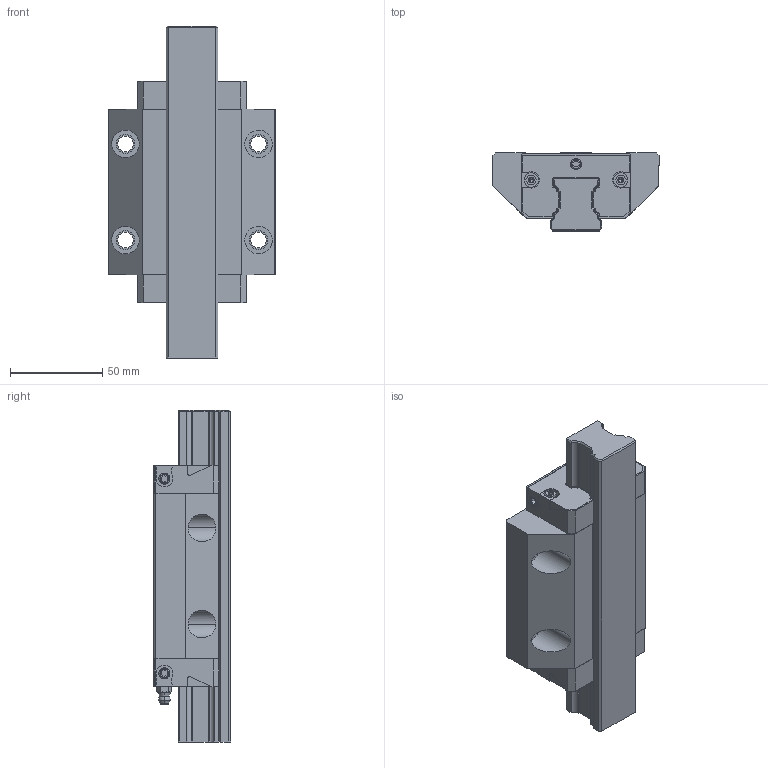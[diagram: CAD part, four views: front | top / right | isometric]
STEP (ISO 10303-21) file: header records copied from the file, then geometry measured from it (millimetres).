
FILE_DESCRIPTION((''),'2;1');
FILE_NAME('KWD_030_FLS_CS__ASM','2021-10-13T05:37:50',('ac91sw'),(''),'CREO PARAMETRIC BY PTC INC, 2020044','CREO PARAMETRIC BY PTC INC, 2020044','');
FILE_SCHEMA(('AUTOMOTIVE_DESIGN { 1 0 10303 214 1 1 1 1 }'));
Length unit declared in the file: millimetre
Products named in the file (7): KWD_030_FLS_CS__SKEL; R200270101; R200170102_Z; R343706101_Z; KWD_030_FLS_CS__PSF; R341700802_Z; KWD_030_FLS_CS__ASM
Assembly tree (11 placements, depth 2):
  KWD_030_FLS_CS__ASM
    KWD_030_FLS_CS__SKEL
    R200270101
    R200170102_Z  x2
    R343706101_Z  x5
    KWD_030_FLS_CS__PSF
    R341700802_Z
Bounding box: 90 x 42 x 179.7 mm (x, y, z)
Volume: 325989.1 mm3; surface area: 81789.9 mm2
Topology: 10 solids, 28 shells, 550 faces, 1406 edges, 902 vertices
Faces by surface type: plane 310, cylinder 166, cone 68, torus 4, sphere 2
Entity records: 17840 total; most frequent: CARTESIAN_POINT 2339, DIRECTION 1872, ORIENTED_EDGE 1732, EDGE_CURVE 890, PROPERTY_DEFINITION 822, REPRESENTATION 813, PROPERTY_DEFINITION_REPRESENTATION 813, DESCRIPTIVE_REPRESENTATION_ITEM 756
